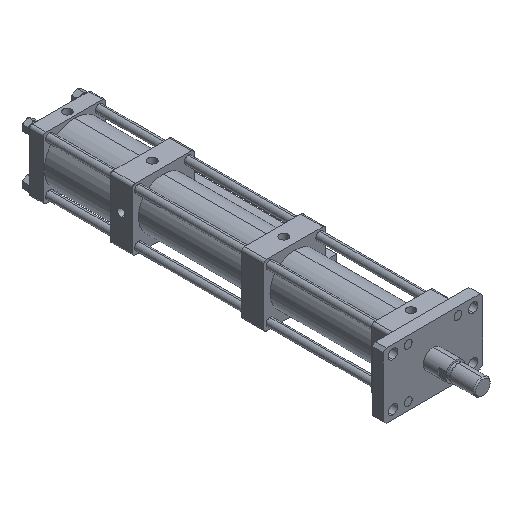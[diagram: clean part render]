
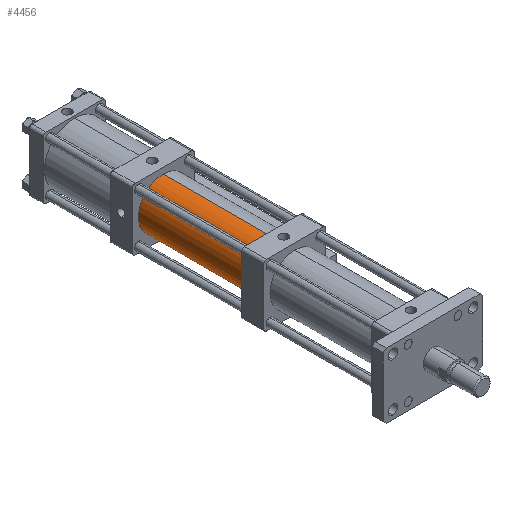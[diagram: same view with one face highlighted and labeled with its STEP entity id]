
A CAD part, isometric view. The second image highlights one B-rep face of the part: STEP entity #4456.
In plain terms, the highlighted cylindrical face has radius 45 mm (diameter 90 mm), a partial arc.
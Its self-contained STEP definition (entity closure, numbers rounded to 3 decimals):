
#38 = ORIENTED_EDGE ( 'NONE', *, *, #7248, .F. ) ;
#131 = LINE ( 'NONE', #3623, #1578 ) ;
#311 = DIRECTION ( 'NONE',  ( 0., 1., 0. ) ) ;
#408 = ORIENTED_EDGE ( 'NONE', *, *, #6876, .T. ) ;
#536 = DIRECTION ( 'NONE',  ( 0., 1., 0. ) ) ;
#1034 = EDGE_CURVE ( 'NONE', #4378, #3433, #131, .T. ) ;
#1082 = EDGE_LOOP ( 'NONE', ( #2120, #38, #1577, #408 ) ) ;
#1323 = CYLINDRICAL_SURFACE ( 'NONE', #2456, 45. ) ;
#1336 = CIRCLE ( 'NONE', #2037, 45. ) ;
#1521 = FACE_OUTER_BOUND ( 'NONE', #1082, .T. ) ;
#1577 = ORIENTED_EDGE ( 'NONE', *, *, #2210, .T. ) ;
#1578 = VECTOR ( 'NONE', #4815, 1000. ) ;
#1625 = CARTESIAN_POINT ( 'NONE',  ( 0., 488.002, 45. ) ) ;
#2037 = AXIS2_PLACEMENT_3D ( 'NONE', #4216, #536, #4825 ) ;
#2120 = ORIENTED_EDGE ( 'NONE', *, *, #1034, .F. ) ;
#2210 = EDGE_CURVE ( 'NONE', #4490, #3374, #3654, .T. ) ;
#2323 = DIRECTION ( 'NONE',  ( 0., 0., -1. ) ) ;
#2456 = AXIS2_PLACEMENT_3D ( 'NONE', #4171, #7852, #2323 ) ;
#3374 = VERTEX_POINT ( 'NONE', #4101 ) ;
#3433 = VERTEX_POINT ( 'NONE', #4191 ) ;
#3458 = VECTOR ( 'NONE', #6291, 1000. ) ;
#3623 = CARTESIAN_POINT ( 'NONE',  ( 0., 488.002, 45. ) ) ;
#3654 = LINE ( 'NONE', #6922, #3458 ) ;
#3993 = CARTESIAN_POINT ( 'NONE',  ( 0., 488.002, 0. ) ) ;
#4101 = CARTESIAN_POINT ( 'NONE',  ( 0., 290.002, -45. ) ) ;
#4171 = CARTESIAN_POINT ( 'NONE',  ( 0., 488.002, 0. ) ) ;
#4191 = CARTESIAN_POINT ( 'NONE',  ( 0., 290.002, 45. ) ) ;
#4216 = CARTESIAN_POINT ( 'NONE',  ( 0., 290.002, 0. ) ) ;
#4378 = VERTEX_POINT ( 'NONE', #1625 ) ;
#4456 = ADVANCED_FACE ( 'NONE', ( #1521 ), #1323, .T. ) ;
#4490 = VERTEX_POINT ( 'NONE', #6674 ) ;
#4600 = DIRECTION ( 'NONE',  ( 0., 0., 1. ) ) ;
#4815 = DIRECTION ( 'NONE',  ( 0., -1., 0. ) ) ;
#4825 = DIRECTION ( 'NONE',  ( 0., 0., 1. ) ) ;
#5738 = CIRCLE ( 'NONE', #6819, 45. ) ;
#6291 = DIRECTION ( 'NONE',  ( 0., -1., 0. ) ) ;
#6674 = CARTESIAN_POINT ( 'NONE',  ( 0., 488.002, -45. ) ) ;
#6819 = AXIS2_PLACEMENT_3D ( 'NONE', #3993, #311, #4600 ) ;
#6876 = EDGE_CURVE ( 'NONE', #3374, #3433, #1336, .T. ) ;
#6922 = CARTESIAN_POINT ( 'NONE',  ( 0., 488.002, -45. ) ) ;
#7248 = EDGE_CURVE ( 'NONE', #4490, #4378, #5738, .T. ) ;
#7852 = DIRECTION ( 'NONE',  ( 0., -1., 0. ) ) ;
